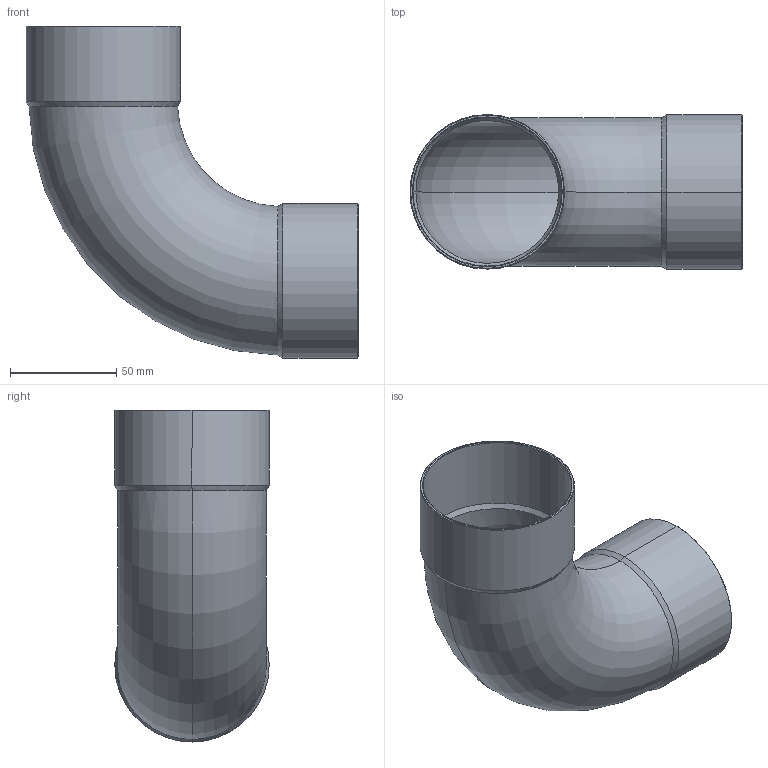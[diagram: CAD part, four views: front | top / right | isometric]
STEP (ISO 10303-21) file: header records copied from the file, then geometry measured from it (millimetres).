
FILE_DESCRIPTION((''),'2;1');
FILE_NAME('D:\5002\15002a70.stp','2005-10-04T12:36:41',('Kris'),(''),'Autodesk Inventor 8','Autodesk Inventor 8','');
FILE_SCHEMA(('AUTOMOTIVE_DESIGN { 1 0 10303 214 1 1 1 1 }'));
Length unit declared in the file: millimetre
Products named in the file (1): 15002a70
Bounding box: 156.4 x 72.8 x 156.4 mm (x, y, z)
Volume: 62619.8 mm3; surface area: 89984.3 mm2
Topology: 1 solids, 1 shells, 30 faces, 60 edges, 32 vertices
Faces by surface type: cone 12, bspline 9, torus 4, cylinder 4, plane 1
Entity records: 1035 total; most frequent: CARTESIAN_POINT 422, DIRECTION 124, ORIENTED_EDGE 120, EDGE_CURVE 60, AXIS2_PLACEMENT_3D 50, VERTEX_POINT 32, EDGE_LOOP 32, FACE_OUTER_BOUND 30
